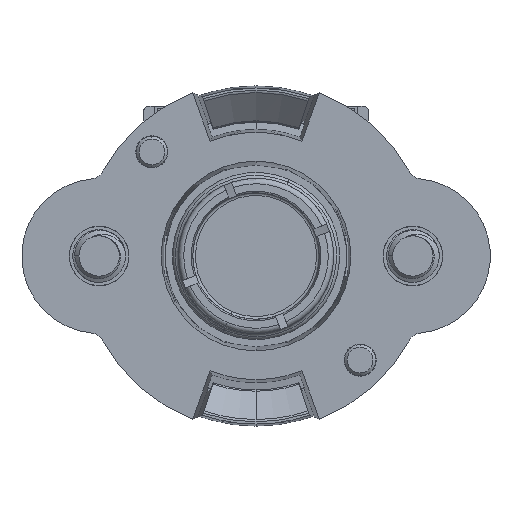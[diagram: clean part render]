
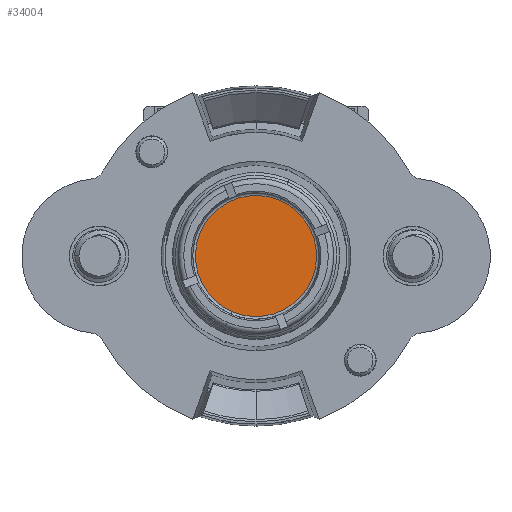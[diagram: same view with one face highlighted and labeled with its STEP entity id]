
A CAD part, front view. The second image highlights one B-rep face of the part: STEP entity #34004.
In plain terms, the highlighted planar face has unit normal (0, -1, 0).
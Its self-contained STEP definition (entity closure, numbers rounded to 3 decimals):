
#33132 = VERTEX_POINT('',#33133);
#33133 = CARTESIAN_POINT('',(-1.149,-6.056,-2.634));
#33152 = VERTEX_POINT('',#33153);
#33153 = CARTESIAN_POINT('',(1.149,-6.056,2.634));
#33160 = EDGE_CURVE('',#33152,#33132,#33161,.T.);
#33161 = CIRCLE('',#33162,2.874);
#33162 = AXIS2_PLACEMENT_3D('',#33163,#33164,#33165);
#33163 = CARTESIAN_POINT('',(0.,-6.056,0.));
#33164 = DIRECTION('',(0.,-1.,-0.));
#33165 = DIRECTION('',(-0.4,0.,-0.917));
#33992 = EDGE_CURVE('',#33132,#33152,#33993,.T.);
#33993 = CIRCLE('',#33994,2.874);
#33994 = AXIS2_PLACEMENT_3D('',#33995,#33996,#33997);
#33995 = CARTESIAN_POINT('',(0.,-6.056,0.));
#33996 = DIRECTION('',(0.,-1.,-0.));
#33997 = DIRECTION('',(-0.4,0.,-0.917));
#34004 = ADVANCED_FACE('',(#34005),#34009,.T.);
#34005 = FACE_BOUND('',#34006,.T.);
#34006 = EDGE_LOOP('',(#34007,#34008));
#34007 = ORIENTED_EDGE('',*,*,#33992,.T.);
#34008 = ORIENTED_EDGE('',*,*,#33160,.T.);
#34009 = PLANE('',#34010);
#34010 = AXIS2_PLACEMENT_3D('',#34011,#34012,#34013);
#34011 = CARTESIAN_POINT('',(0.,-6.056,
    0.));
#34012 = DIRECTION('',(0.,-1.,0.));
#34013 = DIRECTION('',(-0.4,0.,-0.917));
